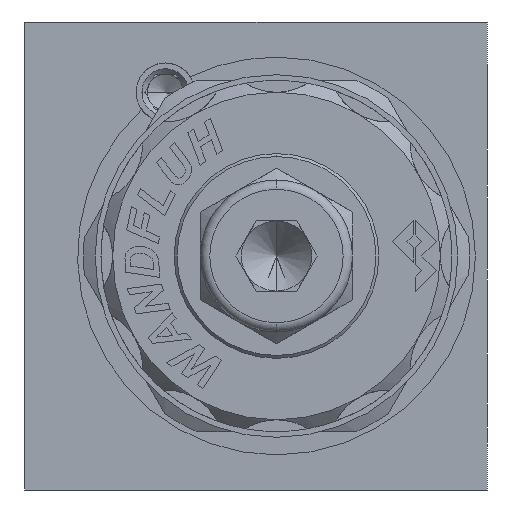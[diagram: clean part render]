
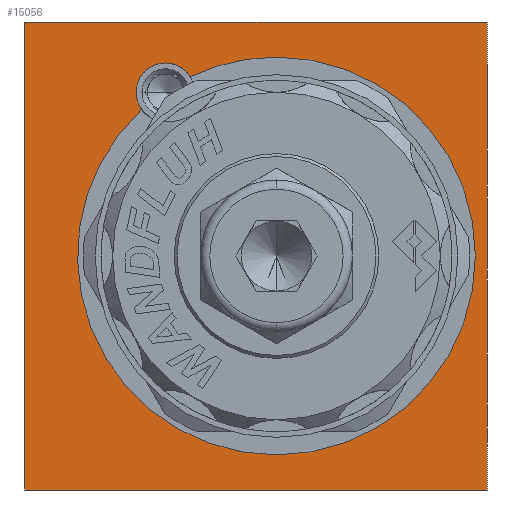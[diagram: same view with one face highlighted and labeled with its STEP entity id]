
A CAD part, left-side view. The second image highlights one B-rep face of the part: STEP entity #15056.
In plain terms, the highlighted planar face has unit normal (-1, 0, 0).
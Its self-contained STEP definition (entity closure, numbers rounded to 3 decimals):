
#339 = LINE ( 'NONE', #17121, #13058 ) ;
#1039 = LINE ( 'NONE', #14212, #21519 ) ;
#1342 = DIRECTION ( 'NONE',  ( 0., 0., 1. ) ) ;
#1454 = EDGE_CURVE ( 'NONE', #20204, #20706, #12856, .T. ) ;
#1525 = CARTESIAN_POINT ( 'NONE',  ( 0., -1.75, 0. ) ) ;
#1725 = CARTESIAN_POINT ( 'NONE',  ( 0., 9.759, 12.512 ) ) ;
#1932 = EDGE_CURVE ( 'NONE', #19616, #10146, #3895, .T. ) ;
#2259 = CARTESIAN_POINT ( 'NONE',  ( 0., -1.75, -17. ) ) ;
#3024 = EDGE_LOOP ( 'NONE', ( #4400, #4564, #4726, #4745, #22796 ) ) ;
#3463 = DIRECTION ( 'NONE',  ( 0., 0., 1. ) ) ;
#3740 = EDGE_CURVE ( 'NONE', #20706, #15579, #7140, .T. ) ;
#3764 = CARTESIAN_POINT ( 'NONE',  ( 0., 19.75, 20. ) ) ;
#3895 = LINE ( 'NONE', #20796, #14467 ) ;
#4400 = ORIENTED_EDGE ( 'NONE', *, *, #1454, .F. ) ;
#4564 = ORIENTED_EDGE ( 'NONE', *, *, #18939, .F. ) ;
#4651 = VERTEX_POINT ( 'NONE', #24610 ) ;
#4726 = ORIENTED_EDGE ( 'NONE', *, *, #22939, .F. ) ;
#4745 = ORIENTED_EDGE ( 'NONE', *, *, #20115, .F. ) ;
#4888 = PLANE ( 'NONE',  #19078 ) ;
#5935 = CIRCLE ( 'NONE', #14458, 17. ) ;
#6305 = ORIENTED_EDGE ( 'NONE', *, *, #1932, .F. ) ;
#6309 = ORIENTED_EDGE ( 'NONE', *, *, #16920, .F. ) ;
#6339 = ORIENTED_EDGE ( 'NONE', *, *, #18447, .F. ) ;
#7140 = CIRCLE ( 'NONE', #21713, 2.5 ) ;
#7783 = CARTESIAN_POINT ( 'NONE',  ( 0., -1.75, 17. ) ) ;
#7843 = CARTESIAN_POINT ( 'NONE',  ( 0., 5.625, 15.317 ) ) ;
#8948 = CARTESIAN_POINT ( 'NONE',  ( 0., -1.75, 0. ) ) ;
#9092 = DIRECTION ( 'NONE',  ( -1., 0., 0. ) ) ;
#9787 = FACE_BOUND ( 'NONE', #3024, .T. ) ;
#10146 = VERTEX_POINT ( 'NONE', #22678 ) ;
#10462 = CARTESIAN_POINT ( 'NONE',  ( 0., 7.75, 14. ) ) ;
#10653 = DIRECTION ( 'NONE',  ( 0., 0., 1. ) ) ;
#10960 = DIRECTION ( 'NONE',  ( 0., 0., 1. ) ) ;
#10978 = CIRCLE ( 'NONE', #20993, 17. ) ;
#11008 = EDGE_LOOP ( 'NONE', ( #23002, #6305, #6309, #6339 ) ) ;
#12451 = DIRECTION ( 'NONE',  ( 0., 0., 1. ) ) ;
#12856 = CIRCLE ( 'NONE', #23289, 2.5 ) ;
#13058 = VECTOR ( 'NONE', #25066, 1000. ) ;
#13196 = DIRECTION ( 'NONE',  ( -1., 0., 0. ) ) ;
#13285 = EDGE_CURVE ( 'NONE', #10146, #4651, #339, .T. ) ;
#13814 = CARTESIAN_POINT ( 'NONE',  ( 0., -19.75, 20. ) ) ;
#14043 = LINE ( 'NONE', #22502, #24644 ) ;
#14212 = CARTESIAN_POINT ( 'NONE',  ( 0., -19.75, 20. ) ) ;
#14458 = AXIS2_PLACEMENT_3D ( 'NONE', #25107, #13196, #1342 ) ;
#14467 = VECTOR ( 'NONE', #20852, 1000. ) ;
#15056 = ADVANCED_FACE ( 'NONE', ( #9787, #25636 ), #4888, .T. ) ;
#15333 = DIRECTION ( 'NONE',  ( -1., 0., 0. ) ) ;
#15371 = CIRCLE ( 'NONE', #17171, 17. ) ;
#15579 = VERTEX_POINT ( 'NONE', #1725 ) ;
#15872 = DIRECTION ( 'NONE',  ( -1., 0., 0. ) ) ;
#16920 = EDGE_CURVE ( 'NONE', #21078, #19616, #1039, .T. ) ;
#17121 = CARTESIAN_POINT ( 'NONE',  ( 0., -19.75, -20. ) ) ;
#17171 = AXIS2_PLACEMENT_3D ( 'NONE', #1525, #15333, #3463 ) ;
#17599 = DIRECTION ( 'NONE',  ( 0., 0., 1. ) ) ;
#18164 = CARTESIAN_POINT ( 'NONE',  ( 0., 7.75, 14. ) ) ;
#18216 = CARTESIAN_POINT ( 'NONE',  ( 0., 7.75, 16.5 ) ) ;
#18447 = EDGE_CURVE ( 'NONE', #4651, #21078, #14043, .T. ) ;
#18939 = EDGE_CURVE ( 'NONE', #24607, #20204, #5935, .T. ) ;
#19078 = AXIS2_PLACEMENT_3D ( 'NONE', #20977, #9092, #22943 ) ;
#19616 = VERTEX_POINT ( 'NONE', #13814 ) ;
#20115 = EDGE_CURVE ( 'NONE', #15579, #21998, #15371, .T. ) ;
#20204 = VERTEX_POINT ( 'NONE', #7843 ) ;
#20254 = DIRECTION ( 'NONE',  ( 0., -1., 0. ) ) ;
#20706 = VERTEX_POINT ( 'NONE', #18216 ) ;
#20796 = CARTESIAN_POINT ( 'NONE',  ( 0., -19.75, 20. ) ) ;
#20852 = DIRECTION ( 'NONE',  ( 0., 0., -1. ) ) ;
#20977 = CARTESIAN_POINT ( 'NONE',  ( 0., 19.75, -20. ) ) ;
#20993 = AXIS2_PLACEMENT_3D ( 'NONE', #8948, #22794, #10960 ) ;
#21078 = VERTEX_POINT ( 'NONE', #3764 ) ;
#21519 = VECTOR ( 'NONE', #20254, 1000. ) ;
#21713 = AXIS2_PLACEMENT_3D ( 'NONE', #10462, #24333, #12451 ) ;
#21998 = VERTEX_POINT ( 'NONE', #2259 ) ;
#22502 = CARTESIAN_POINT ( 'NONE',  ( 0., 19.75, 20. ) ) ;
#22678 = CARTESIAN_POINT ( 'NONE',  ( 0., -19.75, -20. ) ) ;
#22794 = DIRECTION ( 'NONE',  ( -1., 0., 0. ) ) ;
#22796 = ORIENTED_EDGE ( 'NONE', *, *, #3740, .F. ) ;
#22939 = EDGE_CURVE ( 'NONE', #21998, #24607, #10978, .T. ) ;
#22943 = DIRECTION ( 'NONE',  ( 0., 0., 1. ) ) ;
#23002 = ORIENTED_EDGE ( 'NONE', *, *, #13285, .F. ) ;
#23289 = AXIS2_PLACEMENT_3D ( 'NONE', #18164, #15872, #17599 ) ;
#24333 = DIRECTION ( 'NONE',  ( -1., 0., 0. ) ) ;
#24607 = VERTEX_POINT ( 'NONE', #7783 ) ;
#24610 = CARTESIAN_POINT ( 'NONE',  ( 0., 19.75, -20. ) ) ;
#24644 = VECTOR ( 'NONE', #10653, 1000. ) ;
#25066 = DIRECTION ( 'NONE',  ( 0., 1., 0. ) ) ;
#25107 = CARTESIAN_POINT ( 'NONE',  ( 0., -1.75, 0. ) ) ;
#25636 = FACE_OUTER_BOUND ( 'NONE', #11008, .T. ) ;
